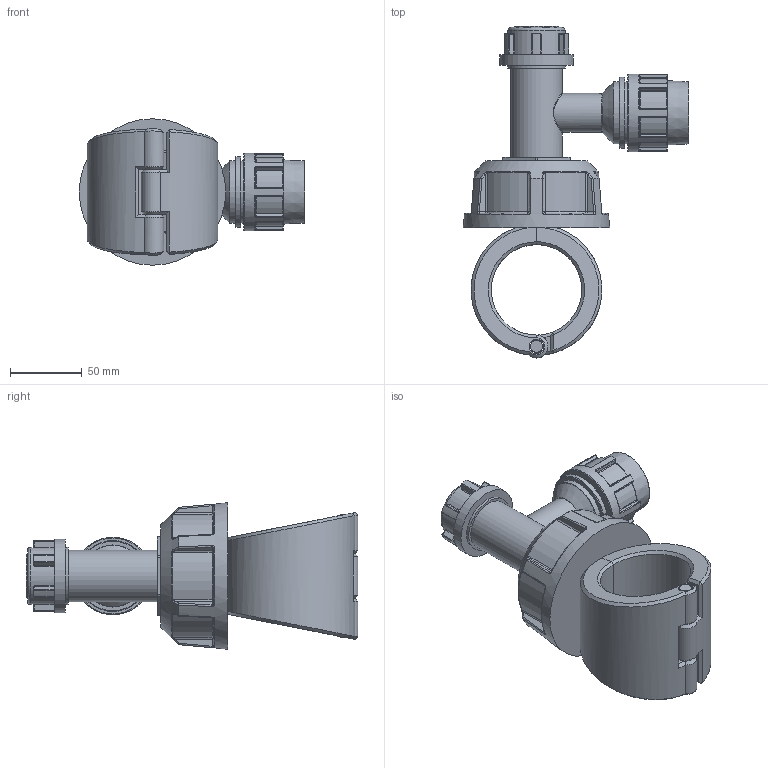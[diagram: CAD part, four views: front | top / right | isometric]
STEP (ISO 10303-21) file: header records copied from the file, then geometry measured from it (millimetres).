
FILE_DESCRIPTION(/* description */ ('Plassadle Tapper 63x25'),/* implementation_level */ '2;1');
FILE_NAME(/* name */ 'C:\Users\comp2\Dropbox\99-16-3568-Processing\Mechanical Fittings\16310\stp\163100063025_1631060630250A.stp',/* time_stamp */ '2022-02-03T11:56:54+00:00',/* author */ ('comp2'),/* organization */ (''),/* preprocessor_version */ 'ST-DEVELOPER v17.2',/* originating_system */ 'Autodesk Inventor 2019',/* authorisation */ '');
FILE_SCHEMA (('AUTOMOTIVE_DESIGN { 1 0 10303 214 3 1 1 }'));
Length unit declared in the file: millimetre
Products named in the file (1): 163100063025_1631060630250A
Bounding box: 157 x 231 x 102 mm (x, y, z)
Volume: 749882.8 mm3; surface area: 107437.9 mm2
Topology: 4 solids, 4 shells, 519 faces, 1253 edges, 754 vertices
Faces by surface type: cylinder 184, plane 109, bspline 87, torus 83, sphere 40, cone 16
Full cylindrical faces by diameter (mm): 8.22 x1, 10.22 x3, 25 x1, 27 x1, 30.6 x1, 35.7 x1, 39.7 x2, 43.2 x2, 49.378 x1, 51 x1, 54 x1
Entity records: 18798 total; most frequent: CARTESIAN_POINT 7045, ORIENTED_EDGE 2508, DIRECTION 2426, EDGE_CURVE 1254, AXIS2_PLACEMENT_3D 1028, VERTEX_POINT 755, CIRCLE 563, EDGE_LOOP 537
